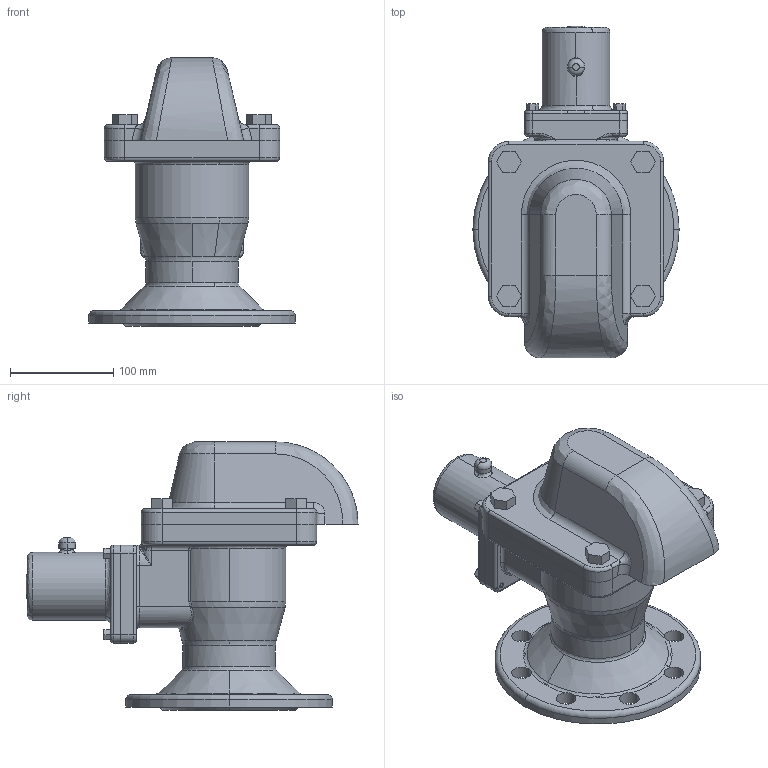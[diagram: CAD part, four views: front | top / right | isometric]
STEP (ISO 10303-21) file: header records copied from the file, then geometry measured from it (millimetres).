
FILE_DESCRIPTION (( 'STEP AP203' ), '1' );
FILE_NAME ('0.STEP', '2017-05-28T03:41:54', ( 'User' ), ( 'shendu' ), 'SwSTEP 2.0', 'SolidWorks 2015', '' );
FILE_SCHEMA (( 'CONFIG_CONTROL_DESIGN' ));
Length unit declared in the file: millimetre
Products named in the file (1): 0
Bounding box: 200 x 321.86 x 260 mm (x, y, z)
Surface area: 539599.8 mm2 (no closed solid volume)
Topology: 0 solids, 18 shells, 460 faces, 1185 edges, 747 vertices
Faces by surface type: cylinder 177, plane 135, bspline 94, cone 31, torus 23
Entity records: 30377 total; most frequent: CARTESIAN_POINT 19648, ORIENTED_EDGE 2326, DIRECTION 2075, EDGE_CURVE 1167, AXIS2_PLACEMENT_3D 800, VERTEX_POINT 747, EDGE_LOOP 529, VECTOR 475
